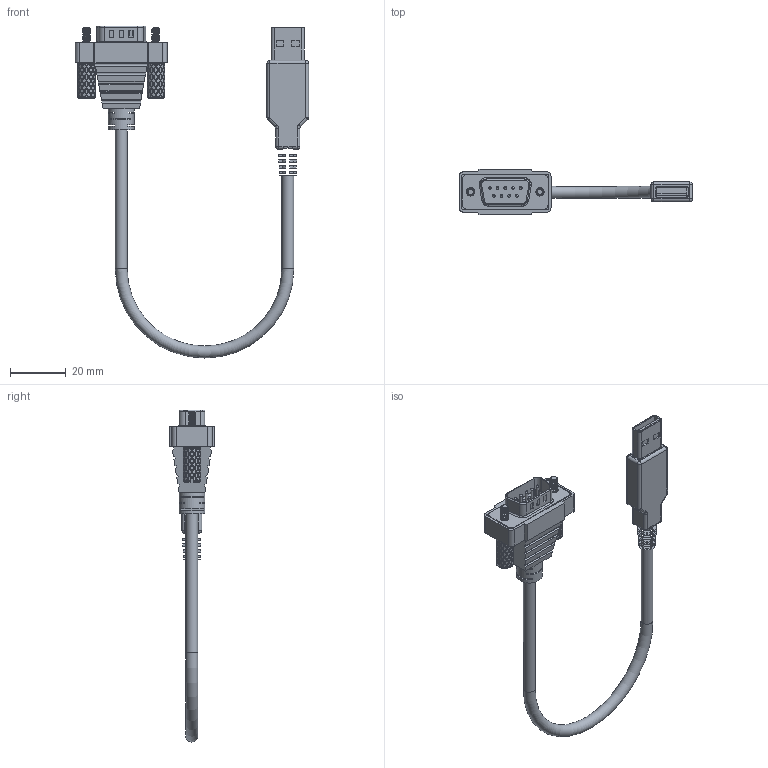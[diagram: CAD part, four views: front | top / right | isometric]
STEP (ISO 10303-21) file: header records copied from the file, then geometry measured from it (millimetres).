
FILE_DESCRIPTION(/* description */ (''),/* implementation_level */ '2;1');
FILE_NAME(/* name */ '/Users/leo/Desktop/Desktop - Leonardo’s MacBook Air/Coolgear May/USA-FTDI-8/USA-FTDI-8 Model3D LPV1.step',/* time_stamp */ '2021-07-27T12:16:10-04:00',/* author */ (''),/* organization */ (''),/* preprocessor_version */ 'ST-DEVELOPER v18.1',/* originating_system */ 'Autodesk Translation Framework v10.9.0.1377',/* authorisation */ '');
FILE_SCHEMA (('AUTOMOTIVE_DESIGN { 1 0 10303 214 3 1 1 }'));
Length unit declared in the file: millimetre
Products named in the file (1): FusionComponent
Bounding box: 84.01 x 16.5 x 119.64 mm (x, y, z)
Volume: 14163.3 mm3; surface area: 11782.4 mm2
Topology: 15 solids, 15 shells, 2072 faces, 5168 edges, 3208 vertices
Faces by surface type: plane 1387, cylinder 570, torus 37, sphere 33, bspline 30, cone 15
Full cylindrical faces by diameter (mm): 1 x18, 2.02 x32, 2.845 x34, 3 x4, 4.3 x2, 4.4 x2, 9.34 x1
Entity records: 69306 total; most frequent: CARTESIAN_POINT 18689, DIRECTION 11589, ORIENTED_EDGE 10198, EDGE_CURVE 5099, AXIS2_PLACEMENT_3D 4730, VERTEX_POINT 3208, EDGE_LOOP 2235, LINE 2129
